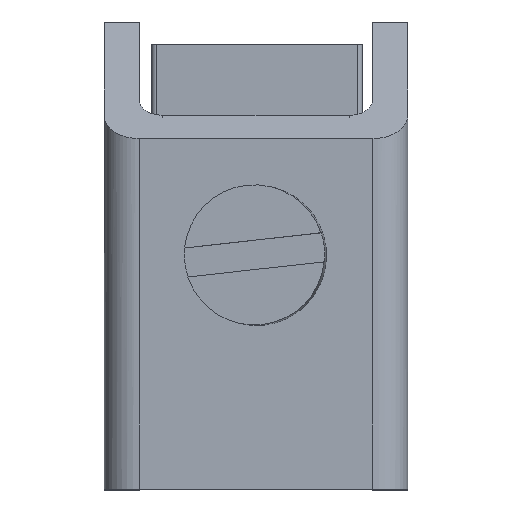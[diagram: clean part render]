
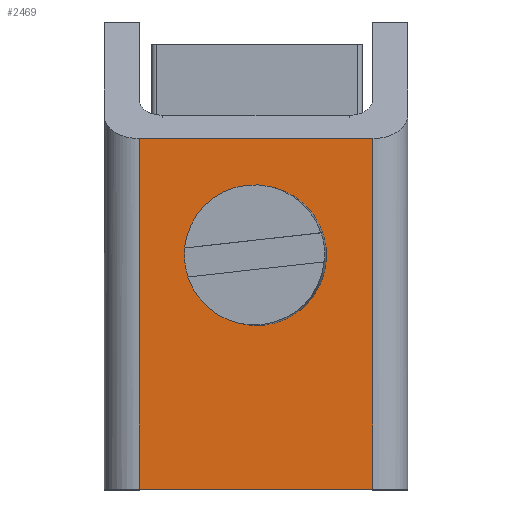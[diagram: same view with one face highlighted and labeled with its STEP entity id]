
A CAD part, top view. The second image highlights one B-rep face of the part: STEP entity #2469.
In plain terms, the highlighted planar face has unit normal (0, 0, 1).
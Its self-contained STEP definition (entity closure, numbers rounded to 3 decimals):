
#161=DIRECTION('',(1.,0.,0.));
#162=VECTOR('',#161,10.);
#163=CARTESIAN_POINT('',(-5.,0.,26.768));
#164=LINE('',#163,#162);
#256=DIRECTION('',(-1.,0.,0.));
#257=VECTOR('',#256,10.);
#258=CARTESIAN_POINT('',(5.,15.,26.768));
#259=LINE('',#258,#257);
#260=DIRECTION('',(0.,-1.,0.));
#261=VECTOR('',#260,15.);
#262=CARTESIAN_POINT('',(-5.,15.,26.768));
#263=LINE('',#262,#261);
#275=CARTESIAN_POINT('',(-5.,15.,26.768));
#277=CARTESIAN_POINT('',(0.,10.,26.768));
#278=DIRECTION('',(0.,0.,1.));
#279=DIRECTION('',(0.002,-1.,0.));
#280=AXIS2_PLACEMENT_3D('',#277,#278,#279);
#282=CARTESIAN_POINT('',(0.,10.,26.768));
#283=DIRECTION('',(0.,0.,1.));
#284=DIRECTION('',(0.04,0.999,0.));
#285=AXIS2_PLACEMENT_3D('',#282,#283,#284);
#287=CARTESIAN_POINT('',(0.,10.,26.768));
#288=DIRECTION('',(0.,0.,1.));
#289=DIRECTION('',(-0.002,1.,0.));
#290=AXIS2_PLACEMENT_3D('',#287,#288,#289);
#296=DIRECTION('',(0.,1.,0.));
#297=VECTOR('',#296,15.);
#298=CARTESIAN_POINT('',(5.,0.,26.768));
#299=LINE('',#298,#297);
#300=CARTESIAN_POINT('',(5.,15.,26.768));
#309=CARTESIAN_POINT('',(0.,10.,26.768));
#310=DIRECTION('',(0.,0.,-1.));
#311=DIRECTION('',(0.002,-1.,0.));
#312=AXIS2_PLACEMENT_3D('',#309,#310,#311);
#349=CARTESIAN_POINT('',(0.,10.,26.768));
#350=DIRECTION('',(0.,0.,-1.));
#351=DIRECTION('',(-0.002,1.,0.));
#352=AXIS2_PLACEMENT_3D('',#349,#350,#351);
#2049=CARTESIAN_POINT('',(-5.,0.,26.768));
#2050=VERTEX_POINT('',#2049);
#2051=CARTESIAN_POINT('',(5.,0.,26.768));
#2052=VERTEX_POINT('',#2051);
#2067=VERTEX_POINT('',#275);
#2072=VERTEX_POINT('',#300);
#2073=CARTESIAN_POINT('',(0.005,7.4,26.768));
#2074=CARTESIAN_POINT('',(-0.061,7.401,
26.768));
#2075=VERTEX_POINT('',#2073);
#2076=VERTEX_POINT('',#2074);
#2077=CARTESIAN_POINT('',(0.104,12.598,26.768));
#2078=VERTEX_POINT('',#2077);
#2079=CARTESIAN_POINT('',(0.055,12.6,26.768));
#2080=VERTEX_POINT('',#2079);
#2081=CARTESIAN_POINT('',(-0.006,12.6,
26.768));
#2082=VERTEX_POINT('',#2081);
#2445=CARTESIAN_POINT('',(-6.5,0.,26.768));
#2446=DIRECTION('',(0.,0.,1.));
#2447=DIRECTION('',(1.,0.,0.));
#2448=AXIS2_PLACEMENT_3D('',#2445,#2446,#2447);
#2449=PLANE('',#2448);
#2451=ORIENTED_EDGE('',*,*,#2450,.F.);
#2452=ORIENTED_EDGE('',*,*,#2337,.F.);
#2453=ORIENTED_EDGE('',*,*,#2436,.F.);
#2454=ORIENTED_EDGE('',*,*,#2426,.F.);
#2455=EDGE_LOOP('',(#2451,#2452,#2453,#2454));
#2456=FACE_OUTER_BOUND('',#2455,.F.);
#2458=ORIENTED_EDGE('',*,*,#2457,.F.);
#2460=ORIENTED_EDGE('',*,*,#2459,.T.);
#2462=ORIENTED_EDGE('',*,*,#2461,.T.);
#2464=ORIENTED_EDGE('',*,*,#2463,.F.);
#2466=ORIENTED_EDGE('',*,*,#2465,.T.);
#2467=EDGE_LOOP('',(#2458,#2460,#2462,#2464,#2466));
#2468=FACE_BOUND('',#2467,.F.);
#2469=ADVANCED_FACE('',(#2456,#2468),#2449,.T.);
#281=CIRCLE('',#280,2.6);
#286=CIRCLE('',#285,2.6);
#291=CIRCLE('',#290,2.6);
#313=CIRCLE('',#312,2.6);
#353=CIRCLE('',#352,2.6);
#2337=EDGE_CURVE('',#2050,#2052,#164,.T.);
#2426=EDGE_CURVE('',#2072,#2067,#259,.T.);
#2436=EDGE_CURVE('',#2067,#2050,#263,.T.);
#2450=EDGE_CURVE('',#2052,#2072,#299,.T.);
#2457=EDGE_CURVE('',#2075,#2076,#313,.T.);
#2459=EDGE_CURVE('',#2075,#2078,#281,.T.);
#2461=EDGE_CURVE('',#2078,#2080,#286,.T.);
#2463=EDGE_CURVE('',#2082,#2080,#353,.T.);
#2465=EDGE_CURVE('',#2082,#2076,#291,.T.);
